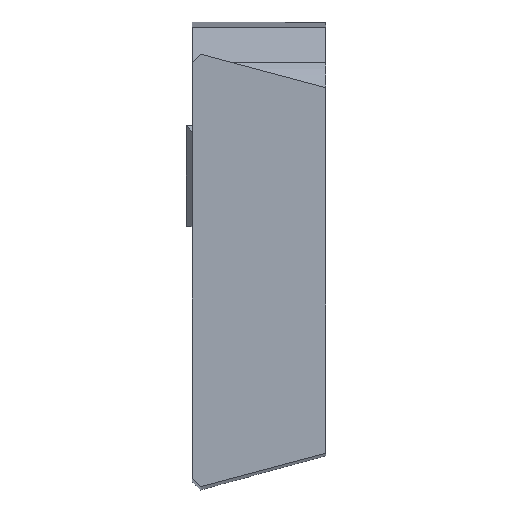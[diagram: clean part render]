
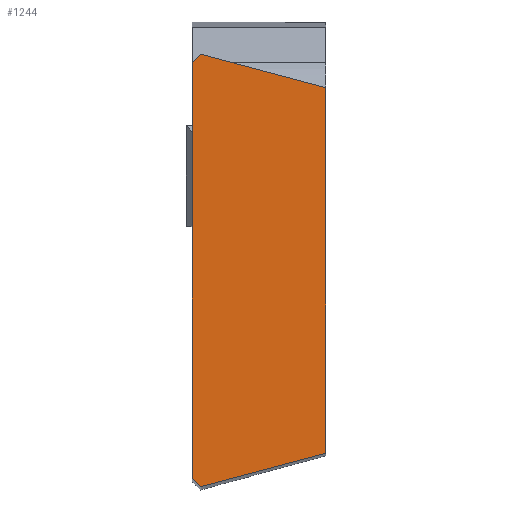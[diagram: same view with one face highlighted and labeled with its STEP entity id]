
A CAD part, top view. The second image highlights one B-rep face of the part: STEP entity #1244.
In plain terms, the highlighted planar face has unit normal (0, 0, 1).
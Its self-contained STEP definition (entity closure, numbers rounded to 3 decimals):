
#1215=AXIS2_PLACEMENT_3D('Plane Axis2P3D',#1212,#1213,#1214) ;
#924=CARTESIAN_POINT('Vertex',(7.94,23.872,0.)) ;
#927=CARTESIAN_POINT('Line Origine',(7.94,13.,0.)) ;
#931=CARTESIAN_POINT('Vertex',(7.94,2.128,0.)) ;
#1148=CARTESIAN_POINT('Vertex',(0.,25.366,0.)) ;
#1151=CARTESIAN_POINT('Line Origine',(0.25,25.616,0.)) ;
#1155=CARTESIAN_POINT('Vertex',(0.5,25.866,0.)) ;
#1199=CARTESIAN_POINT('Line Origine',(4.22,24.869,0.)) ;
#1212=CARTESIAN_POINT('Axis2P3D Location',(0.6,26.134,0.)) ;
#1217=CARTESIAN_POINT('Line Origine',(0.,13.,0.)) ;
#1221=CARTESIAN_POINT('Vertex',(0.,0.634,0.)) ;
#1224=CARTESIAN_POINT('Line Origine',(0.25,0.384,0.)) ;
#1228=CARTESIAN_POINT('Vertex',(0.5,0.134,0.)) ;
#1231=CARTESIAN_POINT('Line Origine',(4.22,1.131,0.)) ;
#928=DIRECTION('Vector Direction',(0.,1.,0.)) ;
#1152=DIRECTION('Vector Direction',(0.707,0.707,0.)) ;
#1200=DIRECTION('Vector Direction',(0.966,-0.259,0.)) ;
#1213=DIRECTION('Axis2P3D Direction',(0.,0.,1.)) ;
#1214=DIRECTION('Axis2P3D XDirection',(0.,-1.,0.)) ;
#1218=DIRECTION('Vector Direction',(0.,1.,0.)) ;
#1225=DIRECTION('Vector Direction',(-0.707,0.707,0.)) ;
#1232=DIRECTION('Vector Direction',(0.966,0.259,0.)) ;
#929=VECTOR('Line Direction',#928,1.) ;
#1153=VECTOR('Line Direction',#1152,1.) ;
#1201=VECTOR('Line Direction',#1200,1.) ;
#1219=VECTOR('Line Direction',#1218,1.) ;
#1226=VECTOR('Line Direction',#1225,1.) ;
#1233=VECTOR('Line Direction',#1232,1.) ;
#1237=ORIENTED_EDGE('',*,*,#1223,.F.) ;
#1238=ORIENTED_EDGE('',*,*,#1230,.F.) ;
#1239=ORIENTED_EDGE('',*,*,#1235,.T.) ;
#1240=ORIENTED_EDGE('',*,*,#933,.T.) ;
#1241=ORIENTED_EDGE('',*,*,#1203,.F.) ;
#1242=ORIENTED_EDGE('',*,*,#1157,.F.) ;
#1244=ADVANCED_FACE('NO_CUT',(#1243),#1216,.T.) ;
#933=EDGE_CURVE('',#932,#925,#930,.T.) ;
#1157=EDGE_CURVE('',#1149,#1156,#1154,.T.) ;
#1203=EDGE_CURVE('',#1156,#925,#1202,.T.) ;
#1223=EDGE_CURVE('',#1222,#1149,#1220,.T.) ;
#1230=EDGE_CURVE('',#1229,#1222,#1227,.T.) ;
#1235=EDGE_CURVE('',#1229,#932,#1234,.T.) ;
#1236=EDGE_LOOP('',(#1237,#1238,#1239,#1240,#1241,#1242)) ;
#1243=FACE_OUTER_BOUND('',#1236,.T.) ;
#930=LINE('Line',#927,#929) ;
#1154=LINE('Line',#1151,#1153) ;
#1202=LINE('Line',#1199,#1201) ;
#1220=LINE('Line',#1217,#1219) ;
#1227=LINE('Line',#1224,#1226) ;
#1234=LINE('Line',#1231,#1233) ;
#1216=PLANE('',#1215) ;
#925=VERTEX_POINT('',#924) ;
#932=VERTEX_POINT('',#931) ;
#1149=VERTEX_POINT('',#1148) ;
#1156=VERTEX_POINT('',#1155) ;
#1222=VERTEX_POINT('',#1221) ;
#1229=VERTEX_POINT('',#1228) ;
